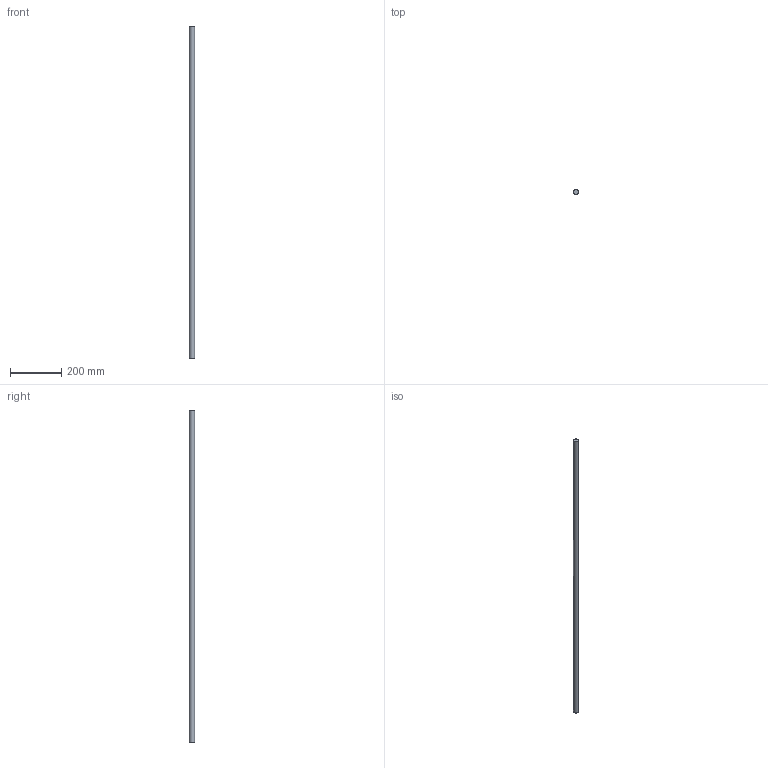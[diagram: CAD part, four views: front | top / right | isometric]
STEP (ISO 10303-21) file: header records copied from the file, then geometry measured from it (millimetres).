
FILE_DESCRIPTION(/* description */ (''),/* implementation_level */ '2;1');
FILE_NAME(/* name */ 'C:\Users\David\Desktop\stepFiles\Profilfuehrung\WF20x1300.stp',/* time_stamp */ '2018-06-24T15:49:04+02:00',/* author */ ('David'),/* organization */ (''),/* preprocessor_version */ 'ST-DEVELOPER v17',/* originating_system */ 'Autodesk Inventor 2019',/* authorisation */ '');
FILE_SCHEMA (('AUTOMOTIVE_DESIGN { 1 0 10303 214 3 1 1 }'));
Length unit declared in the file: millimetre
Products named in the file (1): Wellenfuehrung
Bounding box: 20 x 20 x 1300 mm (x, y, z)
Volume: 408407 mm3; surface area: 82309.7 mm2
Topology: 1 solids, 1 shells, 3 faces, 3 edges, 2 vertices
Faces by surface type: plane 2, cylinder 1
Full cylindrical faces by diameter (mm): 20 x1
Entity records: 98 total; most frequent: DIRECTION 13, CARTESIAN_POINT 9, ORIENTED_EDGE 6, AXIS2_PLACEMENT_3D 6, FACE_OUTER_BOUND 3, EDGE_LOOP 3, EDGE_CURVE 3, ADVANCED_FACE 3
